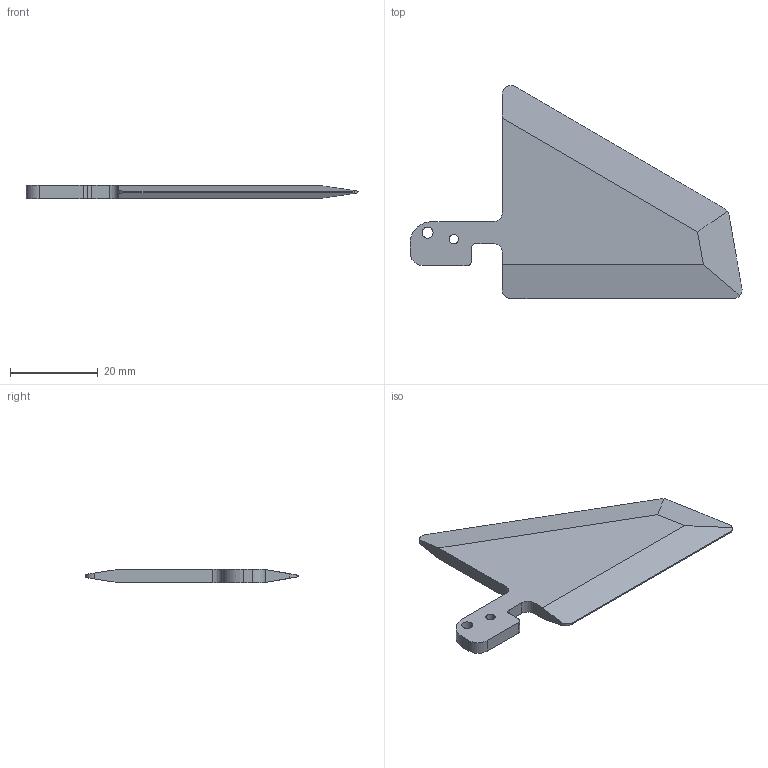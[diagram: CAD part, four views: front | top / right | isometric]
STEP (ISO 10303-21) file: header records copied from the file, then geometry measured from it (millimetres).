
FILE_DESCRIPTION (( 'STEP AP203' ), '1' );
FILE_NAME ('新舵片.STEP', '2026-08-07T08:57:33', ( '微软用户' ), ( '微软中国' ), 'SwSTEP 2.0', 'SolidWorks 2024', '' );
FILE_SCHEMA (( 'CONFIG_CONTROL_DESIGN' ));
Length unit declared in the file: millimetre
Products named in the file (1): 新舵片
Bounding box: 75.62 x 48.52 x 3 mm (x, y, z)
Volume: 4689.2 mm3; surface area: 4359.3 mm2
Topology: 1 solids, 1 shells, 32 faces, 90 edges, 60 vertices
Faces by surface type: plane 18, cylinder 14
Entity records: 1226 total; most frequent: CARTESIAN_POINT 314, ORIENTED_EDGE 180, DIRECTION 164, EDGE_CURVE 90, VERTEX_POINT 60, LINE 58, VECTOR 58, AXIS2_PLACEMENT_3D 53
